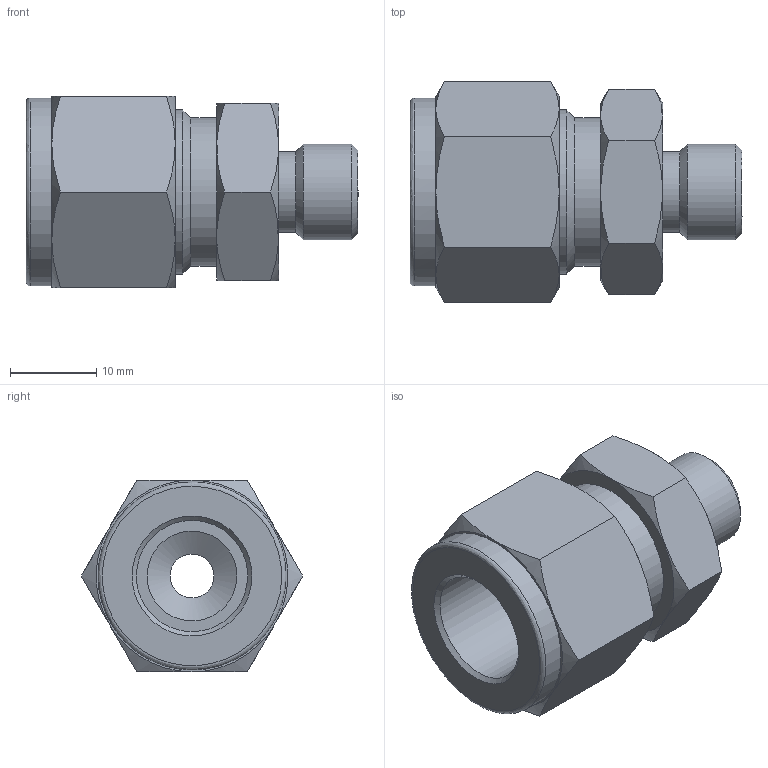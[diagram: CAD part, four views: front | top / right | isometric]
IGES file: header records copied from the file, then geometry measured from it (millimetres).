
Global section: file name: SSMC-8-4U; native system: Autodesk Inventor 2016; preprocessor: unknown; author: DESIGNPC2; date: 20160123.141358; units: millimetre
Bounding box: 38.5 x 25.66 x 22.23 mm (x, y, z)
Volume: 8290.1 mm3; surface area: 4586.6 mm2
Topology: 1 solids, 1 shells, 48 faces, 122 edges, 81 vertices
Faces by surface type: bspline 48
